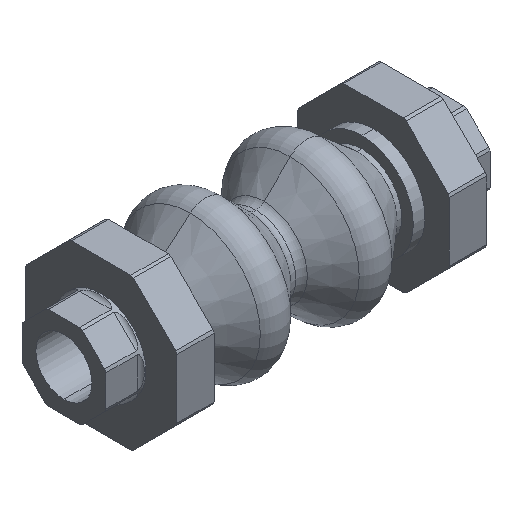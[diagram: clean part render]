
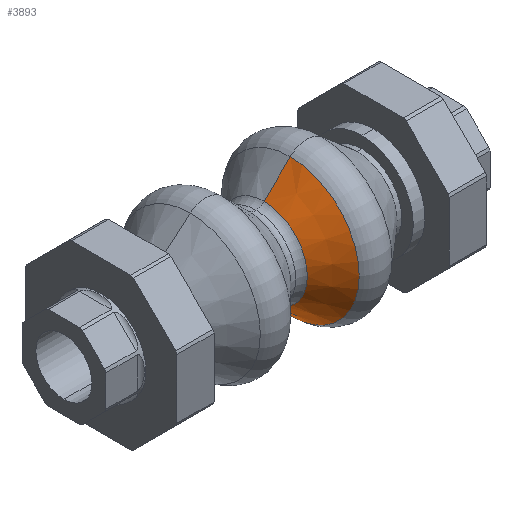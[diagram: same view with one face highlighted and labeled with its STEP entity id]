
A CAD part, isometric view. The second image highlights one B-rep face of the part: STEP entity #3893.
In plain terms, the highlighted conical face has half-angle 44.751 degrees and reference radius 29.602 mm.
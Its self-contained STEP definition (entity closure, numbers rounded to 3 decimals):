
#680 = VERTEX_POINT ( 'NONE', #1824 ) ;
#720 = VERTEX_POINT ( 'NONE', #1857 ) ;
#740 = VERTEX_POINT ( 'NONE', #1902 ) ;
#742 = EDGE_CURVE ( 'NONE', #4040, #720, #1911, .T. ) ;
#744 = EDGE_CURVE ( 'NONE', #740, #680, #1913, .T. ) ;
#789 = EDGE_CURVE ( 'NONE', #740, #4040, #1504, .T. ) ;
#1504 = CIRCLE ( 'NONE', #1536, 18.509 ) ;
#1518 = DIRECTION ( 'NONE',  ( 0., 0., 1. ) ) ;
#1534 = DIRECTION ( 'NONE',  ( -1., 0., 0. ) ) ;
#1535 = CARTESIAN_POINT ( 'NONE',  ( 3.52, 0., 0. ) ) ;
#1536 = AXIS2_PLACEMENT_3D ( 'NONE', #1535, #1534, #1518 ) ;
#1773 = CARTESIAN_POINT ( 'NONE',  ( 14.71, 0., -29.602 ) ) ;
#1808 = VECTOR ( 'NONE', #1812, 1000. ) ;
#1812 = DIRECTION ( 'NONE',  ( 0.71, 0., -0.704 ) ) ;
#1824 = CARTESIAN_POINT ( 'NONE',  ( 14.71, 0., -29.602 ) ) ;
#1857 = CARTESIAN_POINT ( 'NONE',  ( 14.71, 0., 29.602 ) ) ;
#1902 = CARTESIAN_POINT ( 'NONE',  ( 3.52, 0., -18.509 ) ) ;
#1908 = DIRECTION ( 'NONE',  ( 0.71, 0., 0.704 ) ) ;
#1909 = VECTOR ( 'NONE', #1908, 1000. ) ;
#1910 = CARTESIAN_POINT ( 'NONE',  ( 14.71, 0., 29.602 ) ) ;
#1911 = LINE ( 'NONE', #1910, #1909 ) ;
#1913 = LINE ( 'NONE', #1773, #1808 ) ;
#2869 = CONICAL_SURFACE ( 'NONE', #2906, 29.602, 0.781 ) ;
#2897 = DIRECTION ( 'NONE',  ( 0., 0., -1. ) ) ;
#2898 = DIRECTION ( 'NONE',  ( 1., 0., 0. ) ) ;
#2899 = CARTESIAN_POINT ( 'NONE',  ( 14.71, 0., 0. ) ) ;
#2906 = AXIS2_PLACEMENT_3D ( 'NONE', #2899, #2898, #2897 ) ;
#2912 = FACE_OUTER_BOUND ( 'NONE', #3900, .T. ) ;
#3085 = DIRECTION ( 'NONE',  ( 0., 0., 1. ) ) ;
#3086 = DIRECTION ( 'NONE',  ( -1., 0., 0. ) ) ;
#3087 = CARTESIAN_POINT ( 'NONE',  ( 14.71, 0., 0. ) ) ;
#3088 = AXIS2_PLACEMENT_3D ( 'NONE', #3087, #3086, #3085 ) ;
#3097 = CIRCLE ( 'NONE', #3088, 29.602 ) ;
#3277 = CARTESIAN_POINT ( 'NONE',  ( 3.52, 0., 18.509 ) ) ;
#3891 = ORIENTED_EDGE ( 'NONE', *, *, #742, .F. ) ;
#3893 = ADVANCED_FACE ( 'NONE', ( #2912 ), #2869, .T. ) ;
#3897 = ORIENTED_EDGE ( 'NONE', *, *, #789, .F. ) ;
#3900 = EDGE_LOOP ( 'NONE', ( #3891, #3897, #3906, #3975 ) ) ;
#3906 = ORIENTED_EDGE ( 'NONE', *, *, #744, .T. ) ;
#3975 = ORIENTED_EDGE ( 'NONE', *, *, #3977, .T. ) ;
#3977 = EDGE_CURVE ( 'NONE', #680, #720, #3097, .T. ) ;
#4040 = VERTEX_POINT ( 'NONE', #3277 ) ;
